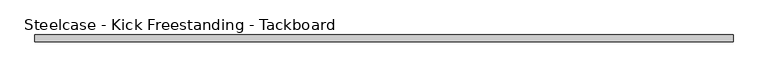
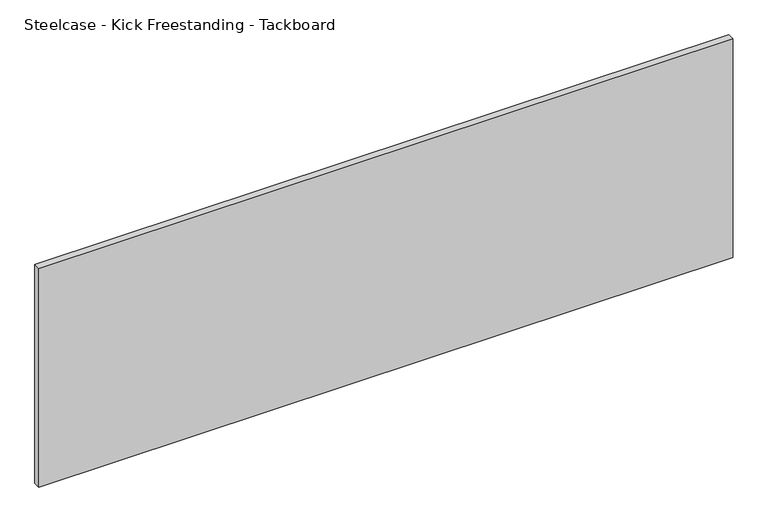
"""IFC4 building model written with IfcOpenShell, lengths in millimetres: furniture geometry, Steelcase - Kick Freestanding - Tackboard : 60W x 19H."""

import ifcopenshell
import ifcopenshell.guid

model = None  # the IFC model being written
_history = None  # IfcOwnerHistory: only IFC2X3 demands one
_inside = {}  # id of a spatial element -> (the spatial element, [elements in it])
_under = {}  # id of a project, library or spatial element -> (it, [spatial elements below it])
_declared = {}  # id of a project -> (the project, [libraries it declares])
_typed = {}  # id of a type object -> (the type object, [elements of that type])
_made_of = {}  # id of a material, layer set ... -> (it, [elements and type objects made of it])


def new_model(schema):
    """Start an empty IFC model of exactly this schema.

    Asked for "IFC4X3", IfcOpenShell would pick the latest addendum, in which some entities
    have other attributes; the version numbers below select the first issue.
    IFC2X3 requires an IfcOwnerHistory on every rooted entity: one is made here for all.
    """
    global model, _history
    if schema == "IFC4X3":
        model = ifcopenshell.file(schema_version=(4, 3, 0, 0))
    else:
        model = ifcopenshell.file(schema=schema)
    _inside.clear()
    _under.clear()
    _declared.clear()
    _typed.clear()
    _made_of.clear()
    _history = None
    if model.schema == "IFC2X3":
        org = make("IfcOrganization", Name="unknown")
        user = make(
            "IfcPersonAndOrganization",
            ThePerson=make("IfcPerson", FamilyName="unknown"),
            TheOrganization=org,
        )
        app = make(
            "IfcApplication",
            ApplicationDeveloper=org,
            Version="unknown",
            ApplicationFullName="unknown",
            ApplicationIdentifier="unknown",
        )
        _history = make(
            "IfcOwnerHistory",
            OwningUser=user,
            OwningApplication=app,
            ChangeAction="ADDED",
            CreationDate=0,
        )
    return model


def make(cls, **values):
    """One entity of the class cls with the attributes given. An attribute that is None is left unset."""
    return model.create_entity(
        cls, **{name: value for name, value in values.items() if value is not None}
    )


def rooted(cls, **values):
    """An entity with a GlobalId (a new one), such as an element, a storey or a relation."""
    return make(cls, GlobalId=ifcopenshell.guid.new(), OwnerHistory=_history, **values)


def si_unit(unit_type, name, prefix=None):
    """IfcSIUnit, for example si_unit("LENGTHUNIT", "METRE", prefix="MILLI")."""
    return make("IfcSIUnit", UnitType=unit_type, Prefix=prefix, Name=name)


def assignment(units):
    """IfcUnitAssignment: the units of a project."""
    return None if units is None else make("IfcUnitAssignment", Units=units)


def point(xyz):
    """IfcCartesianPoint."""
    return None if xyz is None else make("IfcCartesianPoint", Coordinates=xyz)


def direction(xyz):
    """IfcDirection."""
    return None if xyz is None else make("IfcDirection", DirectionRatios=xyz)


def frame(location, z_axis=None, x_axis=None):
    """IfcAxis2Placement3D, a coordinate frame: its origin and axes. An axis left out is left unset."""
    return make(
        "IfcAxis2Placement3D",
        Location=point(location),
        Axis=direction(z_axis),
        RefDirection=direction(x_axis),
    )


def origin():
    """The frame at (0, 0, 0) with its axes left unset."""
    return frame((0.0, 0.0, 0.0))


def place(relative_to, where):
    """IfcLocalPlacement: puts the frame where relative to a parent placement (None: the world)."""
    return make(
        "IfcLocalPlacement", PlacementRelTo=relative_to, RelativePlacement=where
    )


def context(
    kind, dimensions, precision=None, world=None, true_north=None, identifier=None
):
    """IfcGeometricRepresentationContext, for example the 3D "Model" context."""
    return make(
        "IfcGeometricRepresentationContext",
        ContextIdentifier=identifier,
        ContextType=kind,
        CoordinateSpaceDimension=dimensions,
        Precision=precision,
        WorldCoordinateSystem=world,
        TrueNorth=true_north,
    )


def project(units=None, contexts=None):
    """IfcProject with its units and contexts."""
    return rooted(
        "IfcProject",
        Name="project",
        RepresentationContexts=contexts,
        UnitsInContext=assignment(units),
    )


def spatial(cls, under=None, at=None, **own):
    """A site, building, storey or space (cls), placed at a placement, below another one or the project."""
    s = rooted(cls, ObjectPlacement=at, **own)
    if under is not None:
        _under.setdefault(under.id(), (under, []))[1].append(s)
    return s


def polyline(points):
    """IfcPolyline through the points."""
    return make("IfcPolyline", Points=[point(p) for p in points])


def outline(outer, holes=None, kind="AREA"):
    """IfcArbitraryClosedProfileDef: a profile drawn as a closed curve; with holes, ...WithVoids."""
    if holes is None:
        return make("IfcArbitraryClosedProfileDef", ProfileType=kind, OuterCurve=outer)
    return make(
        "IfcArbitraryProfileDefWithVoids",
        ProfileType=kind,
        OuterCurve=outer,
        InnerCurves=holes,
    )


def extrude(swept, where, along, depth):
    """IfcExtrudedAreaSolid: the profile swept, set in the frame where, extruded along a direction by depth."""
    return make(
        "IfcExtrudedAreaSolid",
        SweptArea=swept,
        Position=where,
        ExtrudedDirection=direction(along),
        Depth=depth,
    )


def shape(context_of_items, identifier, shape_type, items):
    """IfcShapeRepresentation: the items that make up one representation, for example the "Body"."""
    return make(
        "IfcShapeRepresentation",
        ContextOfItems=context_of_items,
        RepresentationIdentifier=identifier,
        RepresentationType=shape_type,
        Items=items,
    )


def source(mapping_origin, context_of_items, identifier, shape_type, items):
    """IfcRepresentationMap: a shape defined once, which mapped items show again and again."""
    return make(
        "IfcRepresentationMap",
        MappingOrigin=mapping_origin,
        MappedRepresentation=shape(context_of_items, identifier, shape_type, items),
    )


def transform(
    local_origin,
    x_axis=None,
    y_axis=None,
    z_axis=None,
    scale=None,
    scale2=None,
    scale3=None,
    uniform=True,
):
    """IfcCartesianTransformationOperator3D, or its non-uniform kind. x_axis, y_axis, z_axis: its Axis1, 2, 3."""
    if uniform:
        return make(
            "IfcCartesianTransformationOperator3D",
            Axis1=direction(x_axis),
            Axis2=direction(y_axis),
            LocalOrigin=point(local_origin),
            Scale=scale,
            Axis3=direction(z_axis),
        )
    return make(
        "IfcCartesianTransformationOperator3DnonUniform",
        Axis1=direction(x_axis),
        Axis2=direction(y_axis),
        LocalOrigin=point(local_origin),
        Scale=scale,
        Axis3=direction(z_axis),
        Scale2=scale2,
        Scale3=scale3,
    )


def mapped(mapping_source, mapping_target):
    """IfcMappedItem: shows the shape of a source again, moved by a transform."""
    return make(
        "IfcMappedItem", MappingSource=mapping_source, MappingTarget=mapping_target
    )


def made_of(thing, what):
    """Note that an element or type object is made of a material, layer set ...; save() writes the relation."""
    if what is not None:
        _made_of.setdefault(what.id(), (what, []))[1].append(thing)
    return thing


def element(
    cls,
    number,
    at=None,
    inside=None,
    cuts=None,
    type_object=None,
    material=None,
    context=None,
    identifier="Body",
    shape_type=None,
    held_by="IfcProductDefinitionShape",
    body=None,
    shapes=None,
    **own,
):
    """One element of the class cls, such as IfcWall. Its Tag is "e" and its number.

    at: its placement. inside: the storey or other place that contains it. cuts: it is an
    opening in that element (IfcRelVoidsElement). A single representation is given by context,
    identifier, shape_type and body (its items); several are given by shapes. held_by: the class
    of the entity that holds the representations. save() writes the other relations.
    """
    e = rooted(cls, Tag="e%d" % number, ObjectPlacement=at, **own)
    if body is not None:
        shapes = [shape(context, identifier, shape_type, body)]
    if shapes is not None:
        e.Representation = make(held_by, Representations=shapes)
    if inside is not None:
        _inside.setdefault(inside.id(), (inside, []))[1].append(e)
    if cuts is not None:
        rooted(
            "IfcRelVoidsElement", RelatingBuildingElement=cuts, RelatedOpeningElement=e
        )
    if type_object is not None:
        _typed.setdefault(type_object.id(), (type_object, []))[1].append(e)
    return made_of(e, material)


def aggregate(whole, parts):
    """IfcRelAggregates: a whole, such as a stair, and the parts it consists of."""
    return rooted("IfcRelAggregates", RelatingObject=whole, RelatedObjects=parts)


def save(model, path):
    """Write the relations noted so far, then the file.

    IfcRelAggregates (storeys below a building ...), IfcRelContainedInSpatialStructure (elements
    in a storey), IfcRelDefinesByType, IfcRelAssociatesMaterial and IfcRelDeclares: one each for
    every whole, place, type object, material and project.
    """
    for whole, parts in _under.values():
        aggregate(whole, parts)
    for where, things in _inside.values():
        rooted(
            "IfcRelContainedInSpatialStructure",
            RelatedElements=things,
            RelatingStructure=where,
        )
    for kind, things in _typed.values():
        rooted("IfcRelDefinesByType", RelatedObjects=things, RelatingType=kind)
    for what, things in _made_of.values():
        rooted("IfcRelAssociatesMaterial", RelatedObjects=things, RelatingMaterial=what)
    for by, libraries in _declared.values():
        rooted("IfcRelDeclares", RelatingContext=by, RelatedDefinitions=libraries)
    model.write(path)


def steelcase_kick_freestanding_tackboard_237936ac(model_context):
    return source(origin(), model_context, "Body", "SweptSolid", [
        extrude(outline(polyline([(38.1, -48.89754), (38.1, -34.92754), (1485.9, -34.92754), (1485.9, -48.89754), (38.1, -48.89754)])), frame((0.0, 0.0, 723.9), z_axis=(0.0, 0.0, 1.0), x_axis=(1.0, 0.0, 0.0)), (0.0, 0.0, 1.0), 482.6),
    ])


if __name__ == "__main__":
    model = new_model("IFC4")
    model_context = context("Model", 3, world=origin())
    ifc_project = project(units=[si_unit("LENGTHUNIT", "METRE", prefix="MILLI")], contexts=[model_context])
    site = spatial("IfcSite", under=ifc_project)
    building = spatial("IfcBuilding", under=site)
    placement = place(None, origin())
    steelcase_kick_freestanding_tackboard_shape = steelcase_kick_freestanding_tackboard_237936ac(model_context)
    element("IfcFurniture", 1, ObjectType="Steelcase - Kick Freestanding - Tackboard : 60W x 19H", at=placement, inside=building, context=model_context, shape_type="MappedRepresentation", body=[
        mapped(steelcase_kick_freestanding_tackboard_shape, transform((0.0, 0.0, 0.0), x_axis=(1.0, 0.0, 0.0), y_axis=(0.0, 1.0, 0.0), z_axis=(0.0, 0.0, 1.0))),
    ])
    save(model, "model.ifc")
